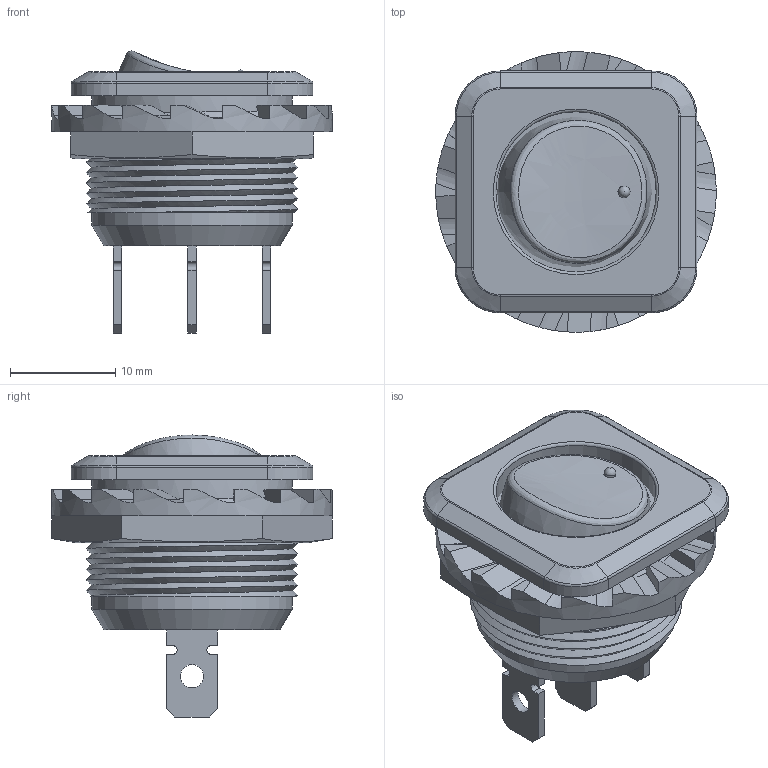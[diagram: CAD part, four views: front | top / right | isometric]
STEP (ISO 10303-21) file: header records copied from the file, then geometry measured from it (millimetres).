
FILE_DESCRIPTION(/* description */ (''),/* implementation_level */ '2;1');
FILE_NAME(/* name */ 'C:\Users\Hani\Desktop\work\RB2-1A-DC-2-RL\RB2-1A-DC-2-RL Rocker Switch.stp',/* time_stamp */ '2020-05-31T15:35:54-07:00',/* author */ ('Hani'),/* organization */ (''),/* preprocessor_version */ 'ST-DEVELOPER v17',/* originating_system */ 'Autodesk Inventor 2019',/* authorisation */ '');
FILE_SCHEMA (('AUTOMOTIVE_DESIGN { 1 0 10303 214 3 1 1 }'));
Length unit declared in the file: inch
Products named in the file (6): Rocker Switch; Mount, Rocker Switch; Botton, Rocker Switch; Nut, Rocker Switch; Switch Body; terminals
Assembly tree (5 placements, depth 2):
  Rocker Switch
    Mount, Rocker Switch
    Botton, Rocker Switch
    Nut, Rocker Switch
    Switch Body
    terminals
Bounding box: 26.67 x 26.67 x 26.82 mm (x, y, z)
Volume: 6871 mm3; surface area: 5323.1 mm2
Topology: 7 solids, 7 shells, 261 faces, 699 edges, 453 vertices
Faces by surface type: plane 137, cylinder 62, cone 31, bspline 21, torus 9, sphere 1
Full cylindrical faces by diameter (mm): 1.118 x1, 1.587 x3, 2.21 x3, 15.24 x1, 16.383 x1, 19.05 x2, 26.67 x1
Entity records: 10836 total; most frequent: CARTESIAN_POINT 4203, ORIENTED_EDGE 1400, DIRECTION 1300, EDGE_CURVE 700, AXIS2_PLACEMENT_3D 470, VERTEX_POINT 455, LINE 360, VECTOR 360
